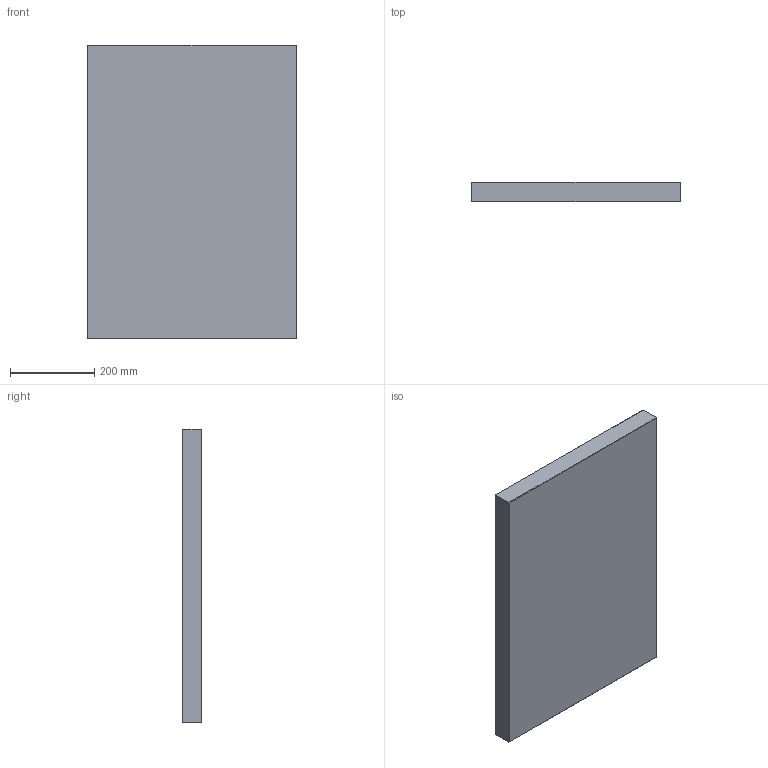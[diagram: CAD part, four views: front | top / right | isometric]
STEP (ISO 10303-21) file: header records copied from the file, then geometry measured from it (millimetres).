
FILE_DESCRIPTION (( 'STEP AP214' ), '1' );
FILE_NAME ('PC-P-496x696x46.STEP', '2020-04-01T14:42:45', ( 'August' ), ( '' ), 'SwSTEP 2.0', 'SolidWorks 2018', '' );
FILE_SCHEMA (( 'AUTOMOTIVE_DESIGN' ));
Length unit declared in the file: millimetre
Products named in the file (1): PC-P-496x696x46
Bounding box: 496 x 46 x 696 mm (x, y, z)
Volume: 15877465.3 mm3; surface area: 797192.2 mm2
Topology: 1 solids, 1 shells, 26 faces, 48 edges, 24 vertices
Faces by surface type: plane 26
Entity records: 634 total; most frequent: DIRECTION 102, CARTESIAN_POINT 99, ORIENTED_EDGE 96, VECTOR 48, EDGE_CURVE 48, LINE 48, AXIS2_PLACEMENT_3D 27, EDGE_LOOP 26
